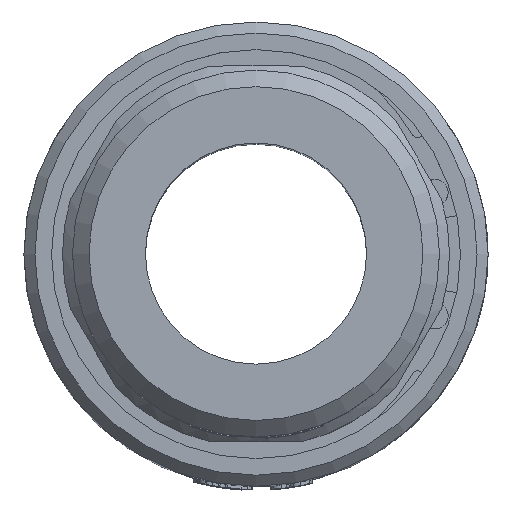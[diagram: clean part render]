
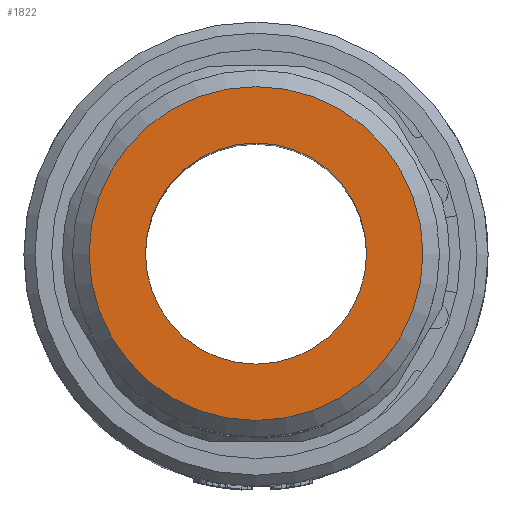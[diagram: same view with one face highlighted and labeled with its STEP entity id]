
A CAD part, top view. The second image highlights one B-rep face of the part: STEP entity #1822.
In plain terms, the highlighted planar face has unit normal (0, 0, 1).
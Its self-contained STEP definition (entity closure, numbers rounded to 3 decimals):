
#216=FACE_BOUND('',#4191,.T.);
#217=FACE_BOUND('',#4192,.T.);
#1066=CIRCLE('',#19340,10.);
#1074=CIRCLE('',#19356,15.1);
#1822=ADVANCED_FACE('',(#216,#217),#2398,.T.);
#2398=PLANE('',#19358);
#4191=EDGE_LOOP('',(#9200));
#4192=EDGE_LOOP('',(#9201));
#9200=ORIENTED_EDGE('',*,*,#15301,.T.);
#9201=ORIENTED_EDGE('',*,*,#15292,.T.);
#12727=VERTEX_POINT('',#36480);
#12735=VERTEX_POINT('',#36505);
#15292=EDGE_CURVE('',#12727,#12727,#1066,.T.);
#15301=EDGE_CURVE('',#12735,#12735,#1074,.T.);
#19340=AXIS2_PLACEMENT_3D('',#36479,#21031,#21032);
#19356=AXIS2_PLACEMENT_3D('',#36504,#21064,#21065);
#19358=AXIS2_PLACEMENT_3D('',#36507,#21068,#21069);
#21031=DIRECTION('',(0.,0.,-1.));
#21032=DIRECTION('',(1.,0.,0.));
#21064=DIRECTION('',(0.,0.,1.));
#21065=DIRECTION('',(1.,0.,0.));
#21068=DIRECTION('',(0.,0.,1.));
#21069=DIRECTION('',(1.,0.,0.));
#36479=CARTESIAN_POINT('',(0.,0.,80.));
#36480=CARTESIAN_POINT('',(10.,0.,80.));
#36504=CARTESIAN_POINT('',(0.,0.,80.));
#36505=CARTESIAN_POINT('',(15.1,0.,80.));
#36507=CARTESIAN_POINT('',(0.,0.,80.));
